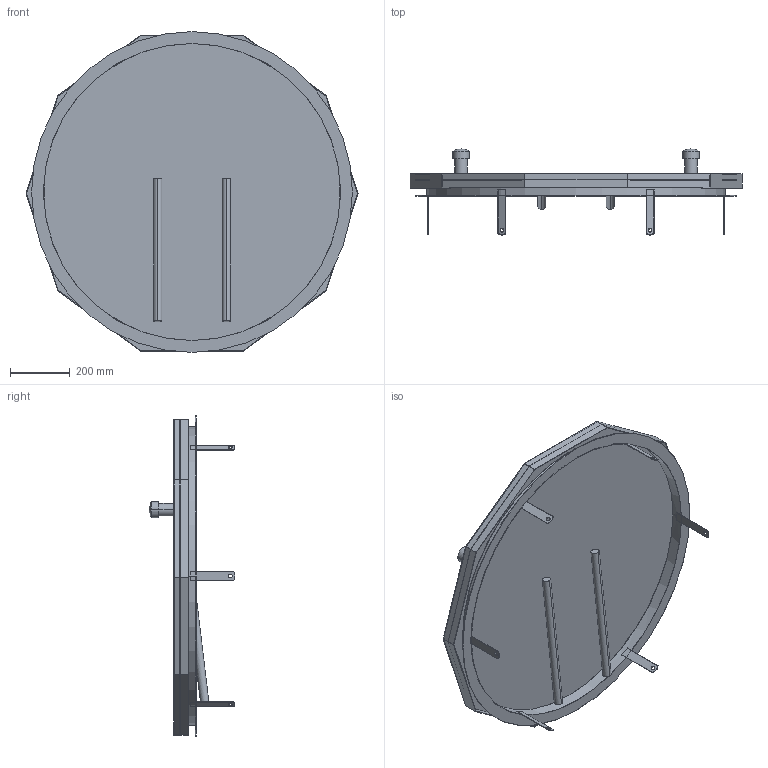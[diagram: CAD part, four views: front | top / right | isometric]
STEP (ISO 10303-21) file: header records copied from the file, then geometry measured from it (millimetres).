
FILE_DESCRIPTION((''),'2;1');
FILE_NAME('51205868-003','2018-05-02T',('gm'),('HUBER SE'),'PRO/ENGINEER BY PARAMETRIC TECHNOLOGY CORPORATION, 2017170','PRO/ENGINEER BY PARAMETRIC TECHNOLOGY CORPORATION, 2017170','');
FILE_SCHEMA(('AUTOMOTIVE_DESIGN { 1 0 10303 214 1 1 1 1 }'));
Length unit declared in the file: millimetre
Products named in the file (1): 51205868-003
Bounding box: 1112.45 x 287.25 x 1075 mm (x, y, z)
Volume: 4687606.1 mm3; surface area: 4622011.3 mm2
Topology: 4 solids, 5 shells, 114 faces, 296 edges, 194 vertices
Faces by surface type: plane 74, cylinder 36, sphere 4
Entity records: 4071 total; most frequent: DIRECTION 621, CARTESIAN_POINT 611, ORIENTED_EDGE 584, EDGE_CURVE 292, AXIS2_PLACEMENT_3D 207, VECTOR 204, LINE 204, VERTEX_POINT 194
